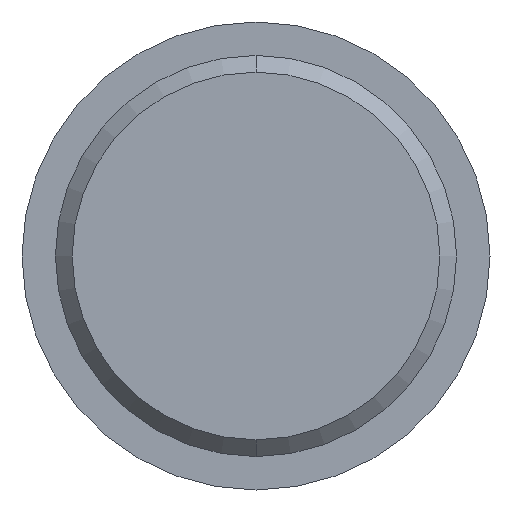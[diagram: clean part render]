
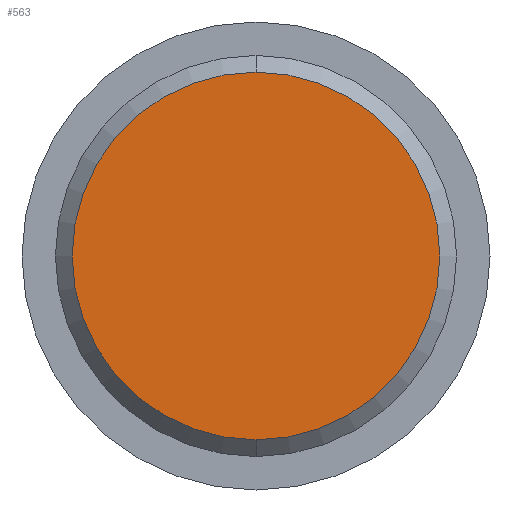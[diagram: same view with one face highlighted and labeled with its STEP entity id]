
A CAD part, front view. The second image highlights one B-rep face of the part: STEP entity #563.
In plain terms, the highlighted planar face has unit normal (0, -1, 0).
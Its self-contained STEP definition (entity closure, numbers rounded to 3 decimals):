
#67 = CARTESIAN_POINT ( 'NONE',  ( 0., 0., 5.5 ) ) ;
#68 = EDGE_LOOP ( 'NONE', ( #470, #296 ) ) ;
#127 = CARTESIAN_POINT ( 'NONE',  ( 0., 0., 0. ) ) ;
#141 = FACE_OUTER_BOUND ( 'NONE', #68, .T. ) ;
#146 = PLANE ( 'NONE',  #376 ) ;
#231 = CIRCLE ( 'NONE', #658, 5.5 ) ;
#234 = AXIS2_PLACEMENT_3D ( 'NONE', #127, #300, #703 ) ;
#255 = CIRCLE ( 'NONE', #234, 5.5 ) ;
#296 = ORIENTED_EDGE ( 'NONE', *, *, #746, .T. ) ;
#300 = DIRECTION ( 'NONE',  ( 0., -1., 0. ) ) ;
#321 = DIRECTION ( 'NONE',  ( 0., -1., 0. ) ) ;
#376 = AXIS2_PLACEMENT_3D ( 'NONE', #499, #321, #442 ) ;
#405 = VERTEX_POINT ( 'NONE', #67 ) ;
#442 = DIRECTION ( 'NONE',  ( 0., 0., -1. ) ) ;
#470 = ORIENTED_EDGE ( 'NONE', *, *, #714, .T. ) ;
#499 = CARTESIAN_POINT ( 'NONE',  ( 0., 0., -6. ) ) ;
#563 = ADVANCED_FACE ( 'NONE', ( #141 ), #146, .T. ) ;
#571 = CARTESIAN_POINT ( 'NONE',  ( 0., 0., -5.5 ) ) ;
#637 = DIRECTION ( 'NONE',  ( 0., -1., 0. ) ) ;
#658 = AXIS2_PLACEMENT_3D ( 'NONE', #691, #637, #756 ) ;
#664 = VERTEX_POINT ( 'NONE', #571 ) ;
#691 = CARTESIAN_POINT ( 'NONE',  ( 0., 0., 0. ) ) ;
#703 = DIRECTION ( 'NONE',  ( 0., 0., -1. ) ) ;
#714 = EDGE_CURVE ( 'NONE', #405, #664, #231, .T. ) ;
#746 = EDGE_CURVE ( 'NONE', #664, #405, #255, .T. ) ;
#756 = DIRECTION ( 'NONE',  ( 0., 0., -1. ) ) ;
